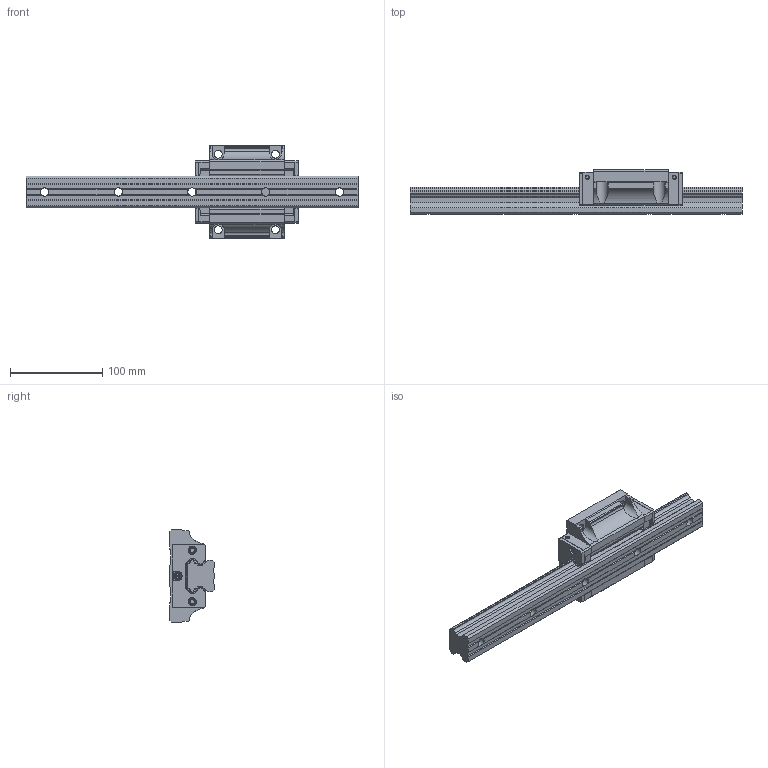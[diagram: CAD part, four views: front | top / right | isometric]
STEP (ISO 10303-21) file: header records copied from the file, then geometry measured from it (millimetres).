
FILE_DESCRIPTION( ( 'STEP AP214' ), '1' );
FILE_NAME( 'C:/Users/tu200/Desktop/賅筐葭/BSQ賅筐葭/VISIDATA/MAIL1/MCH35F.stp', '2020-03-26T11:30:50', ( ' ' ), ( ' ' ), 'XStep 1.0', 'VISICAD', ' ' );
FILE_SCHEMA( ( 'automotive_design' ) );
Length unit declared in the file: metre
Products named in the file (6): 1; 2; 3; 4; 5; 6
Bounding box: 360 x 48 x 100 mm (x, y, z)
Volume: 514387.1 mm3; surface area: 120957.3 mm2
Topology: 6 solids, 6 shells, 1468 faces, 4258 edges, 2866 vertices
Faces by surface type: plane 1000, cylinder 272, bspline 176, extrusion 8, torus 8, cone 4
Full cylindrical faces by diameter (mm): 2 x2, 4.7 x4, 4.8 x4, 6.8 x2, 8.5 x4, 9 x9, 14 x5
Entity records: 71512 total; most frequent: CARTESIAN_POINT 22668, ORIENTED_EDGE 8410, DIRECTION 6698, EDGE_CURVE 4205, VERTEX_POINT 2847, VECTOR 2752, LINE 2744, AXIS2_PLACEMENT_3D 1973
